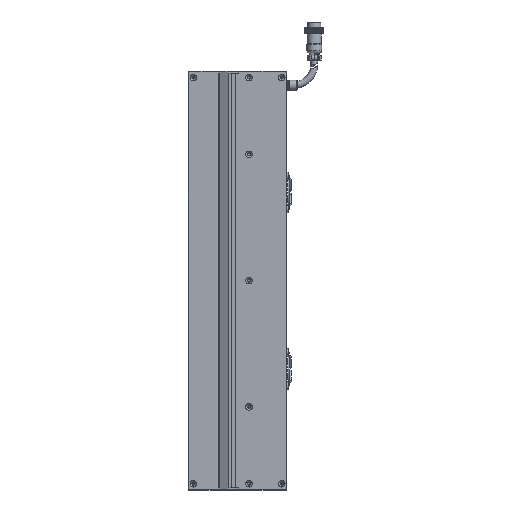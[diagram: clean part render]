
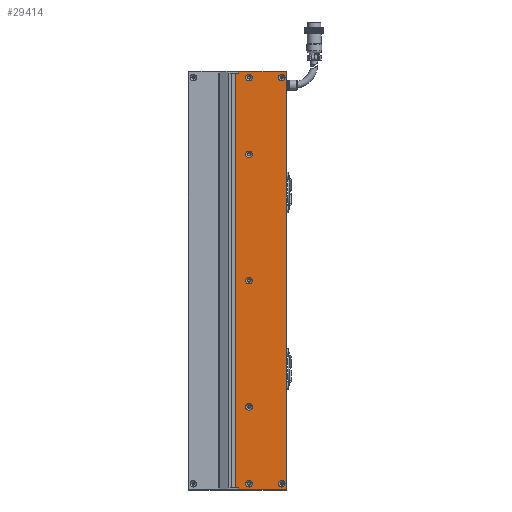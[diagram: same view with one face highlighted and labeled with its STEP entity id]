
A CAD part, left-side view. The second image highlights one B-rep face of the part: STEP entity #29414.
In plain terms, the highlighted planar face has unit normal (-1, 0, 0).
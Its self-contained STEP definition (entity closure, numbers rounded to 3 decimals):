
#709 = FACE_BOUND ( 'NONE', #44266, .T. ) ;
#1278 = CARTESIAN_POINT ( 'NONE',  ( -24.998, -72.5, 197. ) ) ;
#2176 = FACE_BOUND ( 'NONE', #63154, .T. ) ;
#2271 = VERTEX_POINT ( 'NONE', #5923 ) ;
#2800 = VERTEX_POINT ( 'NONE', #54408 ) ;
#4936 = EDGE_CURVE ( 'NONE', #59547, #59547, #78097, .T. ) ;
#5529 = CARTESIAN_POINT ( 'NONE',  ( -24.998, -26.5, -198.5 ) ) ;
#5923 = CARTESIAN_POINT ( 'NONE',  ( -24.998, -67.5, 196.15 ) ) ;
#6072 = ORIENTED_EDGE ( 'NONE', *, *, #119848, .F. ) ;
#6513 = DIRECTION ( 'NONE',  ( 0., 1., 0. ) ) ;
#7404 = AXIS2_PLACEMENT_3D ( 'NONE', #23208, #17064, #45038 ) ;
#7943 = VECTOR ( 'NONE', #73659, 1000. ) ;
#7948 = VECTOR ( 'NONE', #76555, 1000. ) ;
#8483 = ORIENTED_EDGE ( 'NONE', *, *, #20909, .T. ) ;
#8867 = DIRECTION ( 'NONE',  ( 0., 0., 1. ) ) ;
#9565 = VERTEX_POINT ( 'NONE', #82020 ) ;
#9980 = ORIENTED_EDGE ( 'NONE', *, *, #102073, .F. ) ;
#10703 = EDGE_CURVE ( 'NONE', #69989, #69989, #55300, .T. ) ;
#12544 = EDGE_CURVE ( 'NONE', #12586, #12586, #40029, .T. ) ;
#12586 = VERTEX_POINT ( 'NONE', #87430 ) ;
#13767 = CARTESIAN_POINT ( 'NONE',  ( -24.998, -23.25, -197. ) ) ;
#14024 = LINE ( 'NONE', #112036, #7943 ) ;
#15583 = LINE ( 'NONE', #66449, #7948 ) ;
#16431 = AXIS2_PLACEMENT_3D ( 'NONE', #57407, #105055, #87318 ) ;
#17064 = DIRECTION ( 'NONE',  ( -1., 0., 0. ) ) ;
#19731 = LINE ( 'NONE', #54569, #119397 ) ;
#20258 = ORIENTED_EDGE ( 'NONE', *, *, #103611, .F. ) ;
#20443 = CIRCLE ( 'NONE', #71067, 3.15 ) ;
#20768 = CARTESIAN_POINT ( 'NONE',  ( -24.998, -36.5, -189.85 ) ) ;
#20909 = EDGE_CURVE ( 'NONE', #9565, #94001, #19731, .T. ) ;
#21202 = EDGE_LOOP ( 'NONE', ( #56848 ) ) ;
#23208 = CARTESIAN_POINT ( 'NONE',  ( -24.998, -36.5, 120. ) ) ;
#23309 = FACE_BOUND ( 'NONE', #72014, .T. ) ;
#24049 = ORIENTED_EDGE ( 'NONE', *, *, #50361, .T. ) ;
#29414 = ADVANCED_FACE ( 'NONE', ( #2176, #52023, #104791, #709, #110887, #23309, #70131, #44368 ), #97040, .F. ) ;
#30833 = CARTESIAN_POINT ( 'NONE',  ( -24.998, -36.5, -120. ) ) ;
#31162 = CARTESIAN_POINT ( 'NONE',  ( -24.998, -72.5, -198.5 ) ) ;
#32159 = DIRECTION ( 'NONE',  ( -1., 0., 0. ) ) ;
#32175 = VERTEX_POINT ( 'NONE', #93738 ) ;
#32394 = DIRECTION ( 'NONE',  ( 0., -1., 0. ) ) ;
#33930 = AXIS2_PLACEMENT_3D ( 'NONE', #30833, #106435, #59586 ) ;
#35192 = CARTESIAN_POINT ( 'NONE',  ( -24.998, -36.5, -193. ) ) ;
#35869 = LINE ( 'NONE', #13767, #103828 ) ;
#37257 = ORIENTED_EDGE ( 'NONE', *, *, #59031, .F. ) ;
#37837 = CARTESIAN_POINT ( 'NONE',  ( -24.998, -72.5, 197. ) ) ;
#38994 = DIRECTION ( 'NONE',  ( 0., 0., 1. ) ) ;
#40029 = CIRCLE ( 'NONE', #7404, 3.15 ) ;
#40228 = CIRCLE ( 'NONE', #68034, 3.15 ) ;
#40980 = EDGE_CURVE ( 'NONE', #50805, #32175, #55548, .T. ) ;
#41393 = VECTOR ( 'NONE', #96542, 1000. ) ;
#41645 = VERTEX_POINT ( 'NONE', #5529 ) ;
#41648 = EDGE_LOOP ( 'NONE', ( #103757 ) ) ;
#42506 = LINE ( 'NONE', #31162, #107460 ) ;
#44266 = EDGE_LOOP ( 'NONE', ( #108579 ) ) ;
#44368 = FACE_OUTER_BOUND ( 'NONE', #106874, .T. ) ;
#45038 = DIRECTION ( 'NONE',  ( 0., 0., 1. ) ) ;
#50361 = EDGE_CURVE ( 'NONE', #94001, #41645, #15583, .T. ) ;
#50600 = ORIENTED_EDGE ( 'NONE', *, *, #40980, .T. ) ;
#50805 = VERTEX_POINT ( 'NONE', #95547 ) ;
#50983 = AXIS2_PLACEMENT_3D ( 'NONE', #58885, #96831, #38994 ) ;
#52023 = FACE_BOUND ( 'NONE', #41648, .T. ) ;
#54076 = VECTOR ( 'NONE', #8867, 1000. ) ;
#54408 = CARTESIAN_POINT ( 'NONE',  ( -24.998, -26.5, 198.5 ) ) ;
#54569 = CARTESIAN_POINT ( 'NONE',  ( -24.998, -72.5, -197. ) ) ;
#55300 = CIRCLE ( 'NONE', #33930, 3.15 ) ;
#55415 = VECTOR ( 'NONE', #6513, 1000. ) ;
#55548 = LINE ( 'NONE', #74675, #54076 ) ;
#56596 = AXIS2_PLACEMENT_3D ( 'NONE', #35192, #74484, #112070 ) ;
#56848 = ORIENTED_EDGE ( 'NONE', *, *, #90900, .F. ) ;
#57407 = CARTESIAN_POINT ( 'NONE',  ( -24.998, -67.5, 193. ) ) ;
#57714 = VERTEX_POINT ( 'NONE', #108894 ) ;
#57927 = CARTESIAN_POINT ( 'NONE',  ( -24.998, -36.5, -116.85 ) ) ;
#58687 = DIRECTION ( 'NONE',  ( 0., 0., -1. ) ) ;
#58885 = CARTESIAN_POINT ( 'NONE',  ( -24.998, -67.5, -193. ) ) ;
#59031 = EDGE_CURVE ( 'NONE', #9565, #57714, #35869, .T. ) ;
#59387 = EDGE_LOOP ( 'NONE', ( #112493 ) ) ;
#59547 = VERTEX_POINT ( 'NONE', #20768 ) ;
#59586 = DIRECTION ( 'NONE',  ( 0., 0., 1. ) ) ;
#60675 = ORIENTED_EDGE ( 'NONE', *, *, #12544, .F. ) ;
#60943 = EDGE_CURVE ( 'NONE', #32175, #2800, #62964, .T. ) ;
#61358 = CARTESIAN_POINT ( 'NONE',  ( -24.998, -36.5, 193. ) ) ;
#62518 = CARTESIAN_POINT ( 'NONE',  ( -24.998, -36.5, 3.15 ) ) ;
#62964 = LINE ( 'NONE', #74430, #55415 ) ;
#63154 = EDGE_LOOP ( 'NONE', ( #20258 ) ) ;
#64569 = CARTESIAN_POINT ( 'NONE',  ( -24.998, -36.5, 196.15 ) ) ;
#66449 = CARTESIAN_POINT ( 'NONE',  ( -24.998, -26.5, -190. ) ) ;
#67132 = CARTESIAN_POINT ( 'NONE',  ( -24.998, -26.5, 197. ) ) ;
#68034 = AXIS2_PLACEMENT_3D ( 'NONE', #61358, #32159, #100102 ) ;
#68458 = CIRCLE ( 'NONE', #50983, 3.15 ) ;
#68758 = VERTEX_POINT ( 'NONE', #62518 ) ;
#69989 = VERTEX_POINT ( 'NONE', #57927 ) ;
#70131 = FACE_BOUND ( 'NONE', #98952, .T. ) ;
#70165 = LINE ( 'NONE', #37837, #41393 ) ;
#71067 = AXIS2_PLACEMENT_3D ( 'NONE', #104402, #95519, #86645 ) ;
#72014 = EDGE_LOOP ( 'NONE', ( #60675 ) ) ;
#73659 = DIRECTION ( 'NONE',  ( 0., 0., -1. ) ) ;
#73784 = AXIS2_PLACEMENT_3D ( 'NONE', #1278, #97874, #58687 ) ;
#74430 = CARTESIAN_POINT ( 'NONE',  ( -24.998, -72.5, 198.5 ) ) ;
#74484 = DIRECTION ( 'NONE',  ( -1., 0., 0. ) ) ;
#74675 = CARTESIAN_POINT ( 'NONE',  ( -24.998, -72., 197. ) ) ;
#76555 = DIRECTION ( 'NONE',  ( 0., 0., -1. ) ) ;
#78097 = CIRCLE ( 'NONE', #56596, 3.15 ) ;
#80689 = VERTEX_POINT ( 'NONE', #93218 ) ;
#81756 = EDGE_CURVE ( 'NONE', #68758, #68758, #20443, .T. ) ;
#82020 = CARTESIAN_POINT ( 'NONE',  ( -24.998, -23.25, -197. ) ) ;
#83047 = ORIENTED_EDGE ( 'NONE', *, *, #60943, .T. ) ;
#86645 = DIRECTION ( 'NONE',  ( 0., 0., 1. ) ) ;
#87318 = DIRECTION ( 'NONE',  ( 0., 0., 1. ) ) ;
#87430 = CARTESIAN_POINT ( 'NONE',  ( -24.998, -36.5, 123.15 ) ) ;
#88872 = EDGE_CURVE ( 'NONE', #41645, #50805, #42506, .T. ) ;
#90900 = EDGE_CURVE ( 'NONE', #2271, #2271, #93169, .T. ) ;
#91198 = VERTEX_POINT ( 'NONE', #64569 ) ;
#93169 = CIRCLE ( 'NONE', #16431, 3.15 ) ;
#93218 = CARTESIAN_POINT ( 'NONE',  ( -24.998, -67.5, -189.85 ) ) ;
#93738 = CARTESIAN_POINT ( 'NONE',  ( -24.998, -72., 198.5 ) ) ;
#94001 = VERTEX_POINT ( 'NONE', #97967 ) ;
#95519 = DIRECTION ( 'NONE',  ( -1., 0., 0. ) ) ;
#95547 = CARTESIAN_POINT ( 'NONE',  ( -24.998, -72., -198.5 ) ) ;
#96542 = DIRECTION ( 'NONE',  ( 0., -1., 0. ) ) ;
#96831 = DIRECTION ( 'NONE',  ( -1., 0., 0. ) ) ;
#97040 = PLANE ( 'NONE',  #73784 ) ;
#97874 = DIRECTION ( 'NONE',  ( 1., 0., 0. ) ) ;
#97967 = CARTESIAN_POINT ( 'NONE',  ( -24.998, -26.5, -197. ) ) ;
#98952 = EDGE_LOOP ( 'NONE', ( #6072 ) ) ;
#99832 = DIRECTION ( 'NONE',  ( 0., 0., 1. ) ) ;
#100102 = DIRECTION ( 'NONE',  ( 0., 0., 1. ) ) ;
#101422 = DIRECTION ( 'NONE',  ( 0., -1., 0. ) ) ;
#102073 = EDGE_CURVE ( 'NONE', #57714, #120212, #70165, .T. ) ;
#103611 = EDGE_CURVE ( 'NONE', #80689, #80689, #68458, .T. ) ;
#103757 = ORIENTED_EDGE ( 'NONE', *, *, #4936, .F. ) ;
#103828 = VECTOR ( 'NONE', #99832, 1000. ) ;
#104402 = CARTESIAN_POINT ( 'NONE',  ( -24.998, -36.5, 0. ) ) ;
#104791 = FACE_BOUND ( 'NONE', #21202, .T. ) ;
#105055 = DIRECTION ( 'NONE',  ( -1., 0., 0. ) ) ;
#106435 = DIRECTION ( 'NONE',  ( -1., 0., 0. ) ) ;
#106874 = EDGE_LOOP ( 'NONE', ( #8483, #24049, #117972, #50600, #83047, #109865, #9980, #37257 ) ) ;
#107460 = VECTOR ( 'NONE', #32394, 1000. ) ;
#108579 = ORIENTED_EDGE ( 'NONE', *, *, #10703, .F. ) ;
#108894 = CARTESIAN_POINT ( 'NONE',  ( -24.998, -23.25, 197. ) ) ;
#109865 = ORIENTED_EDGE ( 'NONE', *, *, #110591, .T. ) ;
#110591 = EDGE_CURVE ( 'NONE', #2800, #120212, #14024, .T. ) ;
#110887 = FACE_BOUND ( 'NONE', #59387, .T. ) ;
#112036 = CARTESIAN_POINT ( 'NONE',  ( -24.998, -26.5, 190. ) ) ;
#112070 = DIRECTION ( 'NONE',  ( 0., 0., 1. ) ) ;
#112493 = ORIENTED_EDGE ( 'NONE', *, *, #81756, .F. ) ;
#117972 = ORIENTED_EDGE ( 'NONE', *, *, #88872, .T. ) ;
#119397 = VECTOR ( 'NONE', #101422, 1000. ) ;
#119848 = EDGE_CURVE ( 'NONE', #91198, #91198, #40228, .T. ) ;
#120212 = VERTEX_POINT ( 'NONE', #67132 ) ;
